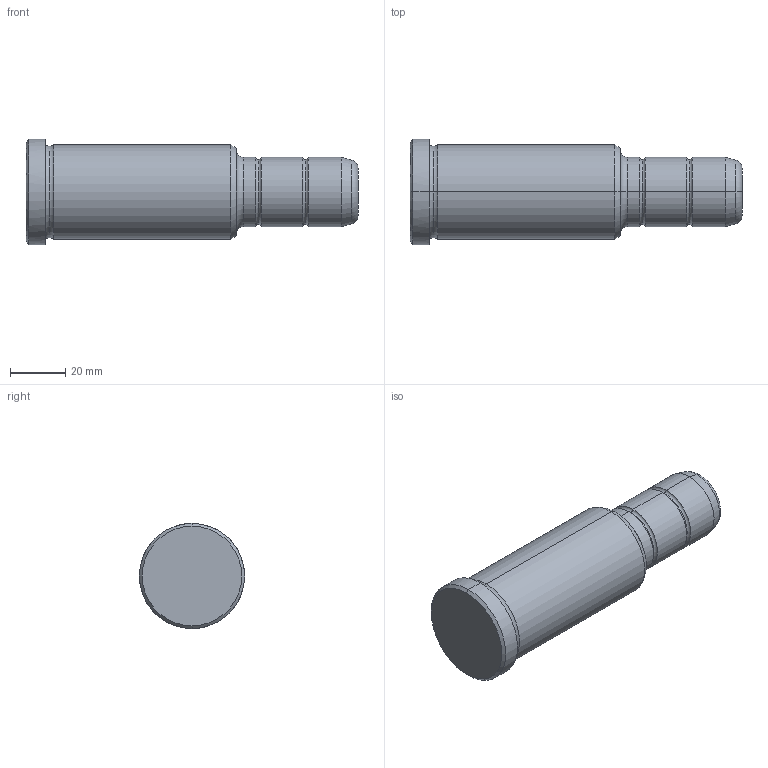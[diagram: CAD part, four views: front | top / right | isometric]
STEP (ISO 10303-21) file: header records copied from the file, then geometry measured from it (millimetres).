
FILE_DESCRIPTION(('CATIA V5 STEP Exchange'),'2;1');
FILE_NAME('C:\Users\Utente\Desktop\IO LAVORO\3D X SITO CF\X SITO\PLASTICA\351\351-25X76X120.stp','2021-09-07T11:35:27+00:00',('none'),('none'),'CATIA Version 5 Release 20 GA (IN-10)','CATIA V5 STEP AP203','none');
FILE_SCHEMA(('CONFIG_CONTROL_DESIGN'));
Length unit declared in the file: millimetre
Products named in the file (1): 351-25X76X120
Bounding box: 120 x 38 x 38 mm (x, y, z)
Volume: 91394.7 mm3; surface area: 13619.8 mm2
Topology: 1 solids, 1 shells, 36 faces, 102 edges, 70 vertices
Faces by surface type: torus 16, cylinder 10, cone 6, plane 4
Entity records: 1292 total; most frequent: CARTESIAN_POINT 321, ORIENTED_EDGE 204, DIRECTION 166, AXIS2_PLACEMENT_3D 115, EDGE_CURVE 102, CIRCLE 78, VERTEX_POINT 70, EDGE_LOOP 38
